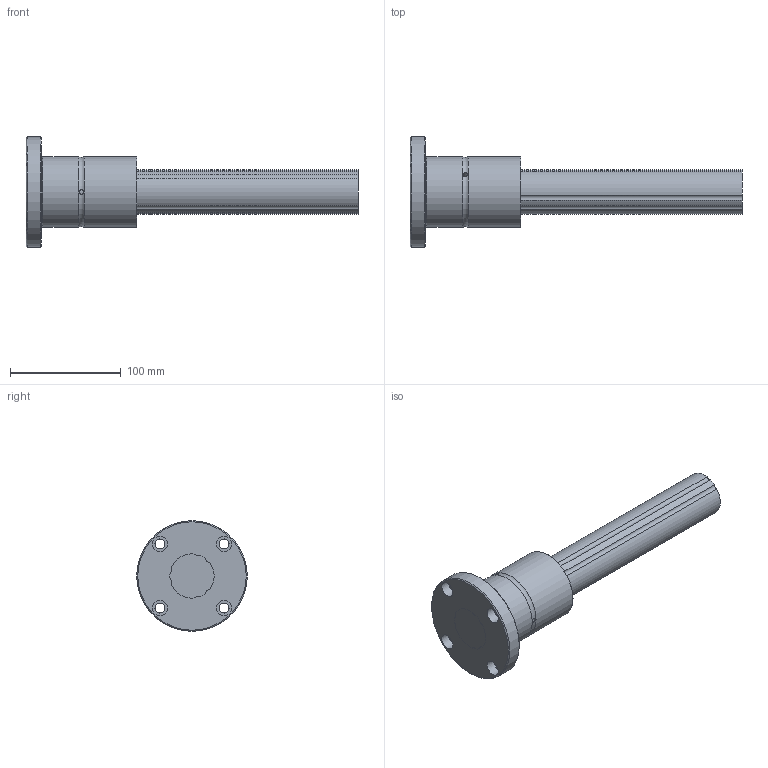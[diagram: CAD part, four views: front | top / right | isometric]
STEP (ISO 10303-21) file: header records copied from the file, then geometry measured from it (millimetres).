
FILE_DESCRIPTION(/* description */ ('STEP AP214'),/* implementation_level */ '2;1');
FILE_NAME(/* name */ 'LF401300(00)',/* time_stamp */ '2024-09-05T14:36:17+02:00',/* author */ ('License CC BY-ND 4.0'),/* organization */ ('CADENAS'),/* preprocessor_version */ 'ST-DEVELOPER v19.3',/* originating_system */ 'PARTsolutions',/* authorisation */ ' ');
FILE_SCHEMA (('AUTOMOTIVE_DESIGN {1 0 10303 214 3 1 1}'));
Length unit declared in the file: millimetre
Products named in the file (3): LF401300(00); LF 40300 FTLFShaft; LF 40 FTLF Cylindar
Assembly tree (2 placements, depth 2):
  LF401300(00)
    LF 40300 FTLFShaft
    LF 40 FTLF Cylindar
Bounding box: 300 x 100 x 100 mm (x, y, z)
Volume: 625895.7 mm3; surface area: 90562 mm2
Topology: 2 solids, 2 shells, 52 faces, 130 edges, 87 vertices
Faces by surface type: cylinder 38, plane 9, torus 3, cone 2
Full cylindrical faces by diameter (mm): 4 x3, 9 x4, 14 x4, 64 x2, 100 x1
Entity records: 1609 total; most frequent: CARTESIAN_POINT 315, DIRECTION 282, ORIENTED_EDGE 208, AXIS2_PLACEMENT_3D 129, EDGE_CURVE 104, EDGE_LOOP 92, FACE_BOUND 92, VERTEX_POINT 80
